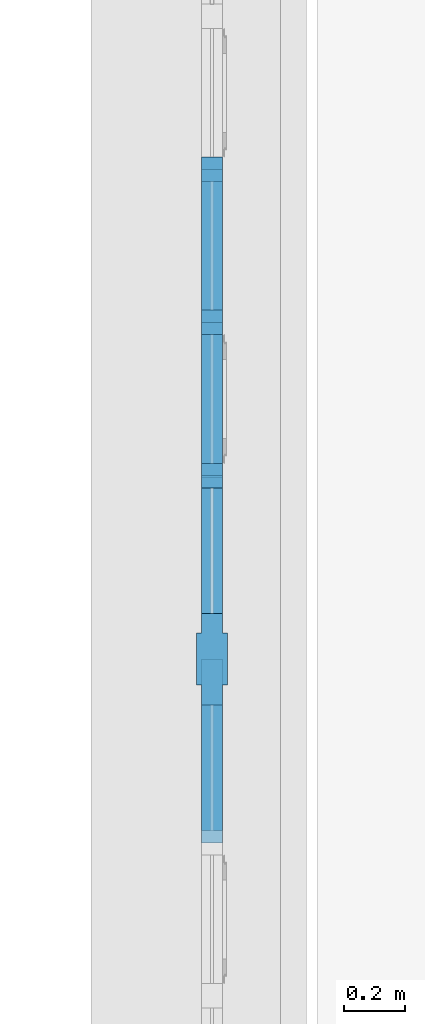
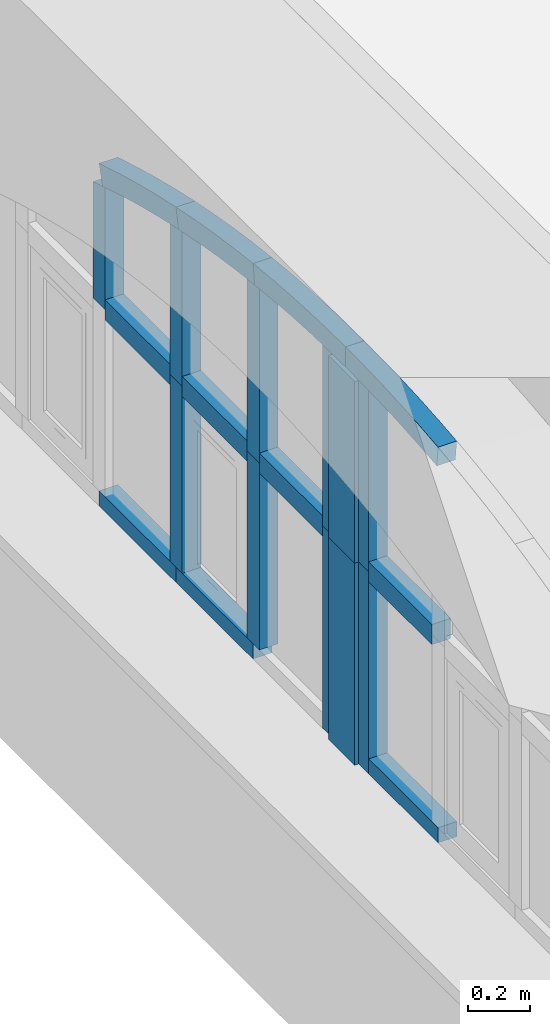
# One storey, part 8 of 32: 18 members, 1 element without a shape of its own.
"""IFC2X3 building model written with IfcOpenShell, lengths in millimetres."""

from ifc_helpers import new_model, entity, si_unit, converted_unit, derived_unit, direction, frame, frame_2d, origin, place, context, subcontext, project, spatial, polyline, circle_curve, parameter, trimmed, segment, composite_curve, rectangle, outline, extrude, faceted_brep, source, transform, mapped, material, type_object, type_shapes, element, aggregate, save


model = new_model("IFC2X3")

# Units and contexts
model_context = context("Model", 3, precision=0.01, world=origin(), true_north=direction((6.123031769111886e-17, 1.0)))
body_context = subcontext(model_context, "Body", "Model", "MODEL_VIEW")
ifc_project = project(units=[si_unit("LENGTHUNIT", "METRE", prefix="MILLI"), si_unit("AREAUNIT", "SQUARE_METRE"), si_unit("VOLUMEUNIT", "CUBIC_METRE"), converted_unit("PLANEANGLEUNIT", "DEGREE", entity("IfcPlaneAngleMeasure", 0.017453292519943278), si_unit("PLANEANGLEUNIT", "RADIAN"), dimensions=[0, 0, 0, 0, 0, 0, 0]), si_unit("MASSUNIT", "GRAM", prefix="KILO"), derived_unit("MASSDENSITYUNIT", [(si_unit("MASSUNIT", "GRAM", prefix="KILO"), 1), (si_unit("LENGTHUNIT", "METRE"), -3)]), derived_unit("IONCONCENTRATIONUNIT", [(si_unit("MASSUNIT", "GRAM", prefix="KILO"), 1), (si_unit("LENGTHUNIT", "METRE"), -3)]), derived_unit("MOMENTOFINERTIAUNIT", [(si_unit("LENGTHUNIT", "METRE"), 4)]), si_unit("TIMEUNIT", "SECOND"), si_unit("FREQUENCYUNIT", "HERTZ"), si_unit("THERMODYNAMICTEMPERATUREUNIT", "DEGREE_CELSIUS"), derived_unit("THERMALTRANSMITTANCEUNIT", [(si_unit("MASSUNIT", "GRAM", prefix="KILO"), 1), (si_unit("THERMODYNAMICTEMPERATUREUNIT", "KELVIN"), -1), (si_unit("TIMEUNIT", "SECOND"), -3)]), derived_unit("THERMALCONDUCTANCEUNIT", [(si_unit("MASSUNIT", "GRAM", prefix="KILO"), 1), (si_unit("THERMODYNAMICTEMPERATUREUNIT", "KELVIN"), -1), (si_unit("TIMEUNIT", "SECOND"), -3), (si_unit("LENGTHUNIT", "METRE"), 1)]), derived_unit("VOLUMETRICFLOWRATEUNIT", [(si_unit("LENGTHUNIT", "METRE", prefix="DECI"), 3), (si_unit("TIMEUNIT", "SECOND"), -1)]), derived_unit("MASSFLOWRATEUNIT", [(si_unit("MASSUNIT", "GRAM", prefix="KILO"), 1), (si_unit("TIMEUNIT", "SECOND"), -1)]), derived_unit("ROTATIONALFREQUENCYUNIT", [(si_unit("TIMEUNIT", "SECOND"), -1)]), si_unit("ELECTRICCURRENTUNIT", "AMPERE"), si_unit("ELECTRICVOLTAGEUNIT", "VOLT"), si_unit("POWERUNIT", "WATT"), si_unit("FORCEUNIT", "NEWTON", prefix="KILO"), si_unit("ILLUMINANCEUNIT", "LUX"), si_unit("LUMINOUSFLUXUNIT", "LUMEN"), si_unit("LUMINOUSINTENSITYUNIT", "CANDELA"), si_unit("ENERGYUNIT", "JOULE"), derived_unit("USERDEFINED", [(si_unit("MASSUNIT", "GRAM", prefix="KILO"), -1), (si_unit("LENGTHUNIT", "METRE"), -2), (si_unit("TIMEUNIT", "SECOND"), 3), (si_unit("LUMINOUSFLUXUNIT", "LUMEN"), 1)]), derived_unit("USERDEFINED", [(si_unit("MASSUNIT", "GRAM", prefix="KILO"), 1), (si_unit("TIMEUNIT", "SECOND"), -3), (si_unit("LENGTHUNIT", "METRE"), 3), (si_unit("ELECTRICCURRENTUNIT", "AMPERE"), -2)]), derived_unit("SOUNDPOWERUNIT", [(si_unit("MASSUNIT", "GRAM", prefix="KILO"), 1), (si_unit("TIMEUNIT", "SECOND"), -3), (si_unit("LENGTHUNIT", "METRE"), 2)]), derived_unit("SOUNDPRESSUREUNIT", [(si_unit("MASSUNIT", "GRAM", prefix="KILO"), 1), (si_unit("LENGTHUNIT", "METRE"), -1), (si_unit("TIMEUNIT", "SECOND"), -2)]), derived_unit("LINEARVELOCITYUNIT", [(si_unit("LENGTHUNIT", "METRE"), 1), (si_unit("TIMEUNIT", "SECOND"), -1)]), si_unit("PRESSUREUNIT", "PASCAL"), derived_unit("USERDEFINED", [(si_unit("MASSUNIT", "GRAM", prefix="KILO"), 1), (si_unit("LENGTHUNIT", "METRE"), -2), (si_unit("TIMEUNIT", "SECOND"), -2)]), derived_unit("LINEARFORCEUNIT", [(si_unit("MASSUNIT", "GRAM", prefix="KILO"), 1), (si_unit("TIMEUNIT", "SECOND"), -2)]), derived_unit("PLANARFORCEUNIT", [(si_unit("MASSUNIT", "GRAM", prefix="KILO"), 1), (si_unit("LENGTHUNIT", "METRE"), -1), (si_unit("TIMEUNIT", "SECOND"), -2)]), derived_unit("SPECIFICHEATCAPACITYUNIT", [(si_unit("THERMODYNAMICTEMPERATUREUNIT", "KELVIN"), -1), (si_unit("LENGTHUNIT", "METRE"), 2), (si_unit("TIMEUNIT", "SECOND"), -2)]), derived_unit("HEATFLUXDENSITYUNIT", [(si_unit("MASSUNIT", "GRAM", prefix="KILO"), 1), (si_unit("TIMEUNIT", "SECOND"), -3)]), derived_unit("HEATINGVALUEUNIT", [(si_unit("LENGTHUNIT", "METRE"), 2), (si_unit("TIMEUNIT", "SECOND"), -2)]), derived_unit("VAPORPERMEABILITYUNIT", [(si_unit("LENGTHUNIT", "METRE"), -1), (si_unit("TIMEUNIT", "SECOND"), 1)]), derived_unit("DYNAMICVISCOSITYUNIT", [(si_unit("MASSUNIT", "GRAM", prefix="KILO"), 1), (si_unit("TIMEUNIT", "SECOND"), -1), (si_unit("LENGTHUNIT", "METRE"), -1)]), derived_unit("THERMALEXPANSIONCOEFFICIENTUNIT", [(si_unit("THERMODYNAMICTEMPERATUREUNIT", "KELVIN"), -1)]), derived_unit("MODULUSOFELASTICITYUNIT", [(si_unit("MASSUNIT", "GRAM", prefix="KILO"), 1), (si_unit("LENGTHUNIT", "METRE"), -1), (si_unit("TIMEUNIT", "SECOND"), -2)]), derived_unit("ISOTHERMALMOISTURECAPACITYUNIT", [(si_unit("MASSUNIT", "GRAM", prefix="KILO"), -1), (si_unit("LENGTHUNIT", "METRE"), 3)]), derived_unit("MOISTUREDIFFUSIVITYUNIT", [(si_unit("TIMEUNIT", "SECOND"), -1), (si_unit("LENGTHUNIT", "METRE"), 2)]), derived_unit("MASSPERLENGTHUNIT", [(si_unit("MASSUNIT", "GRAM", prefix="KILO"), 1), (si_unit("LENGTHUNIT", "METRE"), -1)]), derived_unit("THERMALRESISTANCEUNIT", [(si_unit("MASSUNIT", "GRAM", prefix="KILO"), -1), (si_unit("TIMEUNIT", "SECOND"), 3), (si_unit("THERMODYNAMICTEMPERATUREUNIT", "KELVIN"), 1)]), derived_unit("ACCELERATIONUNIT", [(si_unit("LENGTHUNIT", "METRE"), 1), (si_unit("TIMEUNIT", "SECOND"), -2)]), derived_unit("ANGULARVELOCITYUNIT", [(si_unit("TIMEUNIT", "SECOND"), -1), (si_unit("PLANEANGLEUNIT", "RADIAN"), 1)]), derived_unit("LINEARSTIFFNESSUNIT", [(si_unit("MASSUNIT", "GRAM", prefix="KILO"), 1), (si_unit("TIMEUNIT", "SECOND"), -2)]), derived_unit("WARPINGCONSTANTUNIT", [(si_unit("LENGTHUNIT", "METRE"), 6)]), derived_unit("LINEARMOMENTUNIT", [(si_unit("MASSUNIT", "GRAM", prefix="KILO"), 1), (si_unit("LENGTHUNIT", "METRE"), 1), (si_unit("TIMEUNIT", "SECOND"), -2)]), derived_unit("TORQUEUNIT", [(si_unit("MASSUNIT", "GRAM", prefix="KILO"), 1), (si_unit("LENGTHUNIT", "METRE"), 2), (si_unit("TIMEUNIT", "SECOND"), -2)])], contexts=[model_context])

# Site, building, storey
site_placement = place(None, origin())
site = spatial("IfcSite", under=ifc_project, at=site_placement, Name="Default", CompositionType="ELEMENT")
building_placement = place(site_placement, origin())
building = spatial("IfcBuilding", under=site, at=building_placement, Name="Eesti Rahvusraamatukogu hoone renoveerimise projekteerimistööd", CompositionType="ELEMENT")
storey_placement = place(building_placement, frame((0.0, 0.0, 4950.000000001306)))
storey = spatial("IfcBuildingStorey", under=building, at=storey_placement, Name="2. korrus", CompositionType="ELEMENT", Elevation=4950.000000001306)

# Curtain wall, members
curtain_wall_type = type_object("IfcCurtainWallType", Name="Curtain Wall:Ak-04", PredefinedType="NOTDEFINED")
curtain_wall_placement = place(storey_placement, frame((0.0, 0.0, -4950.000000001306)))
curtain_wall = element("IfcCurtainWall", 1, at=curtain_wall_placement, inside=storey, type_object=curtain_wall_type, Name="Curtain Wall:Ak-04", ObjectType="Curtain Wall:Ak-04")
ifc_material = material(Name="LUMION_dark steel window frames")
member_type_1 = type_object("IfcMemberType", Name="Rectangular Mullion:NEW 80x70mm", PredefinedType="MULLION", material=ifc_material)
shared_shape_1 = source(origin(), body_context, "Body", "SweptSolid", [
    extrude(rectangle(XDim=80.0, YDim=70.0, at=frame_2d((0.0, -3.552713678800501e-15), x_axis=(1.0, 0.0))), frame((0.0, 0.0, -420.0), z_axis=(0.0, 0.0, 1.0), x_axis=(-1.0, 0.0, 0.0)), (0.0, 0.0, 1.0), 419.999999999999),
])
type_shapes(member_type_1, [shared_shape_1])
member_1_placement = place(curtain_wall_placement, frame((-36383.999999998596, 16008.695591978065, 6550.000000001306), z_axis=(0.0, -1.0, 0.0), x_axis=(0.0, 0.0, 1.0)))
member_1 = element("IfcMember", 2, at=member_1_placement, type_object=member_type_1, material=ifc_material, Name="Rectangular Mullion:NEW 80x70mm", ObjectType="Rectangular Mullion:NEW 80x70mm", context=body_context, shape_type="MappedRepresentation", body=[
    mapped(shared_shape_1, transform((0.0, 0.0, 0.0), scale=1.0)),
])
member_2_placement = place(curtain_wall_placement, frame((-36383.999999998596, 16508.695591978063, 6550.000000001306), z_axis=(0.0, -1.0, 0.0), x_axis=(0.0, 0.0, 1.0)))
member_2 = element("IfcMember", 3, at=member_2_placement, type_object=member_type_1, material=ifc_material, Name="Rectangular Mullion:NEW 80x70mm", ObjectType="Rectangular Mullion:NEW 80x70mm", context=body_context, shape_type="MappedRepresentation", body=[
    mapped(shared_shape_1, transform((0.0, 0.0, 0.0), scale=1.0)),
])
member_type_2 = type_object("IfcMemberType", Name="Rectangular Mullion:NEW 80x70mm", PredefinedType="MULLION", material=ifc_material)
shared_shape_2 = source(origin(), body_context, "Body", "SweptSolid", [
    extrude(rectangle(XDim=80.0, YDim=70.0, at=frame_2d((0.0, -3.552713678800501e-15), x_axis=(1.0, 0.0))), frame((0.0, 0.0, -410.0), z_axis=(0.0, 0.0, 1.0), x_axis=(-1.0, 0.0, 0.0)), (0.0, 0.0, 1.0), 409.9999999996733),
])
type_shapes(member_type_2, [shared_shape_2])
member_3_placement = place(curtain_wall_placement, frame((-36383.999999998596, 15518.695591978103, 6550.000000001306), z_axis=(0.0, -1.0, 0.0), x_axis=(0.0, 0.0, 1.0)))
member_3 = element("IfcMember", 4, at=member_3_placement, type_object=member_type_2, material=ifc_material, Name="Rectangular Mullion:NEW 80x70mm", ObjectType="Rectangular Mullion:NEW 80x70mm", context=body_context, shape_type="MappedRepresentation", body=[
    mapped(shared_shape_2, transform((0.0, 0.0, 0.0), scale=1.0)),
])
member_4_placement = place(curtain_wall_placement, frame((-36383.999999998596, 14808.6955919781, 6550.000000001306), z_axis=(0.0, -1.0, 0.0), x_axis=(0.0, 0.0, 1.0)))
member_4 = element("IfcMember", 5, at=member_4_placement, type_object=member_type_2, material=ifc_material, Name="Rectangular Mullion:NEW 80x70mm", ObjectType="Rectangular Mullion:NEW 80x70mm", context=body_context, shape_type="MappedRepresentation", body=[
    mapped(shared_shape_2, transform((0.0, 0.0, 0.0), scale=1.0)),
])
member_type_3 = type_object("IfcMemberType", Name="Rectangular Mullion:NEW 60x70mm", PredefinedType="MULLION", material=ifc_material)
shared_shape_3 = source(origin(), body_context, "Body", "SweptSolid", [
    extrude(rectangle(XDim=60.0, YDim=70.0, at=frame_2d((0.0, 3.552713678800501e-15), x_axis=(1.0, 0.0))), frame((-30.0, 0.0, -500.0), z_axis=(0.0, 0.0, 1.0), x_axis=(-1.0, 0.0, 0.0)), (0.0, 0.0, 1.0), 499.999999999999),
])
type_shapes(member_type_3, [shared_shape_3])
member_5_placement = place(curtain_wall_placement, frame((-36383.999999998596, 16468.695591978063, 5750.000000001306), z_axis=(0.0, 1.0, 0.0), x_axis=(0.0, 0.0, -1.0)))
member_5 = element("IfcMember", 6, at=member_5_placement, type_object=member_type_3, material=ifc_material, Name="Rectangular Mullion:NEW 60x70mm", ObjectType="Rectangular Mullion:NEW 60x70mm", context=body_context, shape_type="MappedRepresentation", body=[
    mapped(shared_shape_3, transform((0.0, 0.0, 0.0), scale=1.0)),
])
member_6_placement = place(curtain_wall_placement, frame((-36383.999999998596, 16968.695591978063, 5750.000000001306), z_axis=(0.0, 1.0, 0.0), x_axis=(0.0, 0.0, -1.0)))
member_6 = element("IfcMember", 7, at=member_6_placement, type_object=member_type_3, material=ifc_material, Name="Rectangular Mullion:NEW 60x70mm", ObjectType="Rectangular Mullion:NEW 60x70mm", context=body_context, shape_type="MappedRepresentation", body=[
    mapped(shared_shape_3, transform((0.0, 0.0, 0.0), scale=1.0)),
])
member_type_4 = type_object("IfcMemberType", Name="Rectangular Mullion:NEW 60x70mm", PredefinedType="MULLION", material=ifc_material)
shared_shape_4 = source(origin(), body_context, "Body", "SweptSolid", [
    extrude(rectangle(XDim=60.0, YDim=70.0, at=frame_2d((0.0, 3.552713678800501e-15), x_axis=(1.0, 0.0))), frame((-30.0, 0.0, -450.0), z_axis=(0.0, 0.0, 1.0), x_axis=(-1.0, 0.0, 0.0)), (0.0, 0.0, 1.0), 449.9999999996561),
])
type_shapes(member_type_4, [shared_shape_4])
member_7_placement = place(curtain_wall_placement, frame((-36383.999999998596, 15218.695591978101, 5750.000000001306), z_axis=(0.0, 1.0, 0.0), x_axis=(0.0, 0.0, -1.0)))
member_7 = element("IfcMember", 8, at=member_7_placement, type_object=member_type_4, material=ifc_material, Name="Rectangular Mullion:NEW 60x70mm", ObjectType="Rectangular Mullion:NEW 60x70mm", context=body_context, shape_type="MappedRepresentation", body=[
    mapped(shared_shape_4, transform((0.0, 0.0, 0.0), scale=1.0)),
])
member_type_5 = type_object("IfcMemberType", Name="Rectangular Mullion:NEW 80x70mm", PredefinedType="MULLION", material=ifc_material)
shared_shape_5 = source(origin(), body_context, "Body", "SweptSolid", [
    extrude(rectangle(XDim=80.0, YDim=70.0, at=frame_2d((0.0, -3.552713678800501e-15), x_axis=(1.0, 0.0))), frame((0.0, 0.0, -740.0), z_axis=(0.0, 0.0, 1.0), x_axis=(-1.0, 0.0, 0.0)), (0.0, 0.0, 1.0), 740.0),
])
type_shapes(member_type_5, [shared_shape_5])
member_8_placement = place(curtain_wall_placement, frame((-36383.999999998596, 15968.695591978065, 5810.000000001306), z_axis=(0.0, 0.0, -1.0), x_axis=(0.0, -1.0, 0.0)))
member_8 = element("IfcMember", 9, at=member_8_placement, type_object=member_type_5, material=ifc_material, Name="Rectangular Mullion:NEW 80x70mm", ObjectType="Rectangular Mullion:NEW 80x70mm", context=body_context, shape_type="MappedRepresentation", body=[
    mapped(shared_shape_5, transform((0.0, 0.0, 0.0), scale=1.0)),
])
member_9_placement = place(curtain_wall_placement, frame((-36383.999999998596, 16468.695591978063, 5810.000000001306), z_axis=(0.0, 0.0, -1.0), x_axis=(0.0, -1.0, 0.0)))
member_9 = element("IfcMember", 10, at=member_9_placement, type_object=member_type_5, material=ifc_material, Name="Rectangular Mullion:NEW 80x70mm", ObjectType="Rectangular Mullion:NEW 80x70mm", context=body_context, shape_type="MappedRepresentation", body=[
    mapped(shared_shape_5, transform((0.0, 0.0, 0.0), scale=1.0)),
])
member_type_6 = type_object("IfcMemberType", Name="Rectangular Mullion:NEW 80x70mm", PredefinedType="MULLION", material=ifc_material)
shared_shape_6 = source(origin(), body_context, "Body", "SweptSolid", [
    extrude(outline(composite_curve([segment(polyline([(-411.6963002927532, -38.21553912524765), (278.6344972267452, -38.21553912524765)]), True, "CONTINUOUS"), segment(trimmed(circle_curve(frame_2d((-4991.472419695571, -598.2155391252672), x_axis=(1.0, 0.0)), 5299.776119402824), [parameter(6.065472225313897)], [parameter(6.403451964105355)], True, "PARAMETER"), True, "CONTINUOUS"), segment(trimmed(circle_curve(frame_2d((-4991.472419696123, -598.2155391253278), x_axis=(0.9937612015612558, 0.11152880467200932)), 5299.776119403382), [parameter(0.0)], [parameter(0.532503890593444)], True, "PARAMETER"), True, "CONTINUOUS"), segment(polyline([(269.51863863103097, 41.78446087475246), (-411.6963002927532, 41.78446087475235)]), True, "CONTINUOUS"), segment(polyline([(-411.6963002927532, 41.78446087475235), (-411.6963002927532, -38.21553912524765)]), True, "CONTINUOUS")], self_intersect=False)), frame((1.7844608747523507, -35.0, -411.6963002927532), z_axis=(0.0, 1.0, 0.0), x_axis=(0.0, 0.0, -1.0)), (0.0, 0.0, 1.0), 69.99999999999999),
])
type_shapes(member_type_6, [shared_shape_6])
member_10_placement = place(curtain_wall_placement, frame((-36383.999999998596, 15968.695591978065, 6550.000000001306), z_axis=(0.0, 0.0, -1.0), x_axis=(0.0, -1.0, 0.0)))
member_10 = element("IfcMember", 11, at=member_10_placement, type_object=member_type_6, material=ifc_material, Name="Rectangular Mullion:NEW 80x70mm", ObjectType="Rectangular Mullion:NEW 80x70mm", context=body_context, shape_type="MappedRepresentation", body=[
    mapped(shared_shape_6, transform((0.0, 0.0, 0.0), scale=1.0)),
])
member_type_7 = type_object("IfcMemberType", Name="Rectangular Mullion:NEW 80x70mm", PredefinedType="MULLION", material=ifc_material)
shared_shape_7 = source(origin(), body_context, "Body", "SweptSolid", [
    extrude(outline(composite_curve([segment(polyline([(-363.376788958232, -36.72848839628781), (249.53684896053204, -36.72848839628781)]), True, "CONTINUOUS"), segment(trimmed(circle_curve(frame_2d((-4943.152908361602, -1096.7284883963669), x_axis=(0.9937612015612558, 0.11152880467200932)), 5299.776119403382), [parameter(5.134001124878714)], [parameter(5.394992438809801)], True, "PARAMETER"), True, "CONTINUOUS"), segment(trimmed(circle_curve(frame_2d((-4943.152908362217, -1096.7284883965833), x_axis=(0.9788729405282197, 0.20446947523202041)), 5299.776119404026), [parameter(0.0)], [parameter(0.6231507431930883)], True, "PARAMETER"), True, "CONTINUOUS"), segment(polyline([(232.5622031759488, 43.27151160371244), (-363.376788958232, 43.27151160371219)]), True, "CONTINUOUS"), segment(polyline([(-363.376788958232, 43.27151160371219), (-363.376788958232, -36.72848839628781)]), True, "CONTINUOUS")], self_intersect=False)), frame((3.2715116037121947, -35.0, -363.376788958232), z_axis=(0.0, 1.0, 0.0), x_axis=(0.0, 0.0, -1.0)), (0.0, 0.0, 1.0), 69.99999999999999),
])
type_shapes(member_type_7, [shared_shape_7])
member_11_placement = place(curtain_wall_placement, frame((-36383.999999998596, 16468.695591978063, 6550.000000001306), z_axis=(0.0, 0.0, -1.0), x_axis=(0.0, -1.0, 0.0)))
member_11 = element("IfcMember", 12, at=member_11_placement, type_object=member_type_7, material=ifc_material, Name="Rectangular Mullion:NEW 80x70mm", ObjectType="Rectangular Mullion:NEW 80x70mm", context=body_context, shape_type="MappedRepresentation", body=[
    mapped(shared_shape_7, transform((0.0, 0.0, 0.0), scale=1.0)),
])
member_type_8 = type_object("IfcMemberType", Name="Rectangular Mullion:NEW 80x70mm", PredefinedType="MULLION", material=ifc_material)
shared_shape_8 = source(origin(), body_context, "Body", "SweptSolid", [
    extrude(outline(composite_curve([segment(polyline([(-285.0515721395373, -35.24143766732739), (200.1527542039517, -35.24143766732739)]), True, "CONTINUOUS"), segment(trimmed(circle_curve(frame_2d((-4864.827691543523, -1595.241437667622), x_axis=(0.9788729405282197, 0.20446947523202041)), 5299.776119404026), [parameter(5.320243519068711)], [parameter(5.503672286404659)], True, "PARAMETER"), True, "CONTINUOUS"), segment(trimmed(circle_curve(frame_2d((-4864.827691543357, -1595.2414376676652), x_axis=(0.9547498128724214, 0.2974101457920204)), 5299.776119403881), [parameter(0.0)], [parameter(0.7237926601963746)], True, "PARAMETER"), True, "CONTINUOUS"), segment(polyline([(174.8178233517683, 44.758562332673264), (-285.0515721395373, 44.75856233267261)]), True, "CONTINUOUS"), segment(polyline([(-285.0515721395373, 44.75856233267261), (-285.0515721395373, -35.24143766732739)]), True, "CONTINUOUS")], self_intersect=False)), frame((4.758562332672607, -35.0, -285.0515721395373), z_axis=(0.0, 1.0, 0.0), x_axis=(0.0, 0.0, -1.0)), (0.0, 0.0, 1.0), 70.00000000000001),
])
type_shapes(member_type_8, [shared_shape_8])
member_12_placement = place(curtain_wall_placement, frame((-36383.999999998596, 16968.695591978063, 6550.000000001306), z_axis=(0.0, 0.0, -1.0), x_axis=(0.0, -1.0, 0.0)))
member_12 = element("IfcMember", 13, at=member_12_placement, type_object=member_type_8, material=ifc_material, Name="Rectangular Mullion:NEW 80x70mm", ObjectType="Rectangular Mullion:NEW 80x70mm", context=body_context, shape_type="MappedRepresentation", body=[
    mapped(shared_shape_8, transform((0.0, 0.0, 0.0), scale=1.0)),
])
member_type_9 = type_object("IfcMemberType", Name="Rectangular Mullion:NEW 80x70mm", PredefinedType="MULLION", material=ifc_material)
shared_shape_9 = source(origin(), body_context, "Body", "SweptSolid", [
    extrude(outline(composite_curve([segment(polyline([(-51.82710825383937, -251.02635265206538), (28.172891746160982, -251.0263526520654)]), True, "CONTINUOUS"), segment(trimmed(circle_curve(frame_2d((5327.949011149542, -251.0263526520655), x_axis=(-0.995570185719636, 0.09402130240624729)), 5299.776119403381), [parameter(3.5622212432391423e-13)], [parameter(5.394992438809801)], True, "PARAMETER"), False, "CONTINUOUS"), segment(polyline([(51.649915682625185, 247.26550055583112), (-27.99569917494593, 254.78720474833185)]), True, "CONTINUOUS"), segment(trimmed(circle_curve(frame_2d((5327.949011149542, -251.0263526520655), x_axis=(-0.995570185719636, 0.09402130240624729)), 5379.776119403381), [parameter(3.5622212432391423e-13)], [parameter(5.394992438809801)], True, "PARAMETER"), True, "CONTINUOUS")], self_intersect=False)), frame((-51.827108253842, -35.0, -251.0263526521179), z_axis=(0.0, 1.0, 0.0), x_axis=(-0.9955701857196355, 0.0, 0.09402130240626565)), (0.0, 0.0, 1.0), 69.99999999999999),
])
type_shapes(member_type_9, [shared_shape_9])
member_13_placement = place(curtain_wall_placement, frame((-36383.999999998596, 15968.695591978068, 7316.436661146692), z_axis=(0.0, -0.9937612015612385, 0.11152880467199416), x_axis=(0.0, 0.11152880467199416, 0.9937612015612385)))
member_13 = element("IfcMember", 14, at=member_13_placement, type_object=member_type_9, material=ifc_material, Name="Rectangular Mullion:NEW 80x70mm", ObjectType="Rectangular Mullion:NEW 80x70mm", context=body_context, shape_type="MappedRepresentation", body=[
    mapped(shared_shape_9, transform((0.0, 0.0, 0.0), scale=1.0)),
])
member_type_10 = type_object("IfcMemberType", Name="Rectangular Mullion:NEW 80x70mm", PredefinedType="MULLION", material=ifc_material)
shared_shape_10 = source(origin(), body_context, "Body", "SweptSolid", [
    extrude(outline(composite_curve([segment(polyline([(-52.308041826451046, -256.0677643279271), (27.6919581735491, -256.0677643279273)]), True, "CONTINUOUS"), segment(trimmed(circle_curve(frame_2d((5327.468077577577, -256.0677643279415), x_axis=(-0.995390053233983, 0.09590955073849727)), 5299.776119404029), [parameter(3.5622212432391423e-13)], [parameter(5.503672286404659)], True, "PARAMETER"), False, "CONTINUOUS"), segment(polyline([(52.12364395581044, 252.23138229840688), (-27.50756030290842, 259.90414635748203)]), True, "CONTINUOUS"), segment(trimmed(circle_curve(frame_2d((5327.468077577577, -256.0677643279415), x_axis=(-0.995390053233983, 0.09590955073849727)), 5379.776119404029), [parameter(3.5622212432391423e-13)], [parameter(5.503672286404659)], True, "PARAMETER"), True, "CONTINUOUS")], self_intersect=False)), frame((-52.30804182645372, -35.0, -256.0677643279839), z_axis=(0.0, 1.0, 0.0), x_axis=(-0.9953900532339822, 0.0, 0.09590955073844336)), (0.0, 0.0, 1.0), 69.99999999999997),
])
type_shapes(member_type_10, [shared_shape_10])
member_14_placement = place(curtain_wall_placement, frame((-36383.999999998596, 16468.69559197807, 7236.341149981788), z_axis=(0.0, -0.9788729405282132, 0.2044694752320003), x_axis=(0.0, 0.2044694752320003, 0.9788729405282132)))
member_14 = element("IfcMember", 15, at=member_14_placement, type_object=member_type_10, material=ifc_material, Name="Rectangular Mullion:NEW 80x70mm", ObjectType="Rectangular Mullion:NEW 80x70mm", context=body_context, shape_type="MappedRepresentation", body=[
    mapped(shared_shape_10, transform((0.0, 0.0, 0.0), scale=1.0)),
])
member_type_11 = type_object("IfcMemberType", Name="Rectangular Mullion:NEW 300x100mm", PredefinedType="MULLION", material=ifc_material)
shared_shape_11 = source(origin(), body_context, "Body", "Brep", [
    faceted_brep([(-85.0, -50.0, 0.0), (85.0, -50.0, 0.0), (85.0, -35.0, 0.0), (150.0, -35.0, 0.0), (150.0, 35.0, 0.0), (85.0, 35.0, 0.0), (85.0, 50.0, 0.0), (-85.0, 50.0, 0.0), (-85.0, 35.0, 0.0), (-150.0, 35.0, 0.0), (-150.0, -35.0, 0.0), (-85.0, -35.0, 0.0), (-85.0, 35.0, -719.3183235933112), (-117.50221047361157, 35.0, -718.6972594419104), (-150.0, 35.0, -717.8768435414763), (150.0, 35.0, -717.8768435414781), (117.50221047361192, 35.0, -718.6972594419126), (85.0, 35.0, -719.3183235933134), (-150.0, -35.0, -717.8768435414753), (-117.50221047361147, -35.0, -718.6972594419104), (-85.0, -35.0, -719.3183235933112), (85.0, -35.0, -719.3183235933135), (117.50221047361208, -35.0, -718.6972594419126), (150.0, -35.0, -717.8768435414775), (-85.0, -50.0, -719.3183235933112), (-85.0, 50.0, -719.3183235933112), (-42.50068337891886, -50.0, -719.8295836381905), (0.0, -50.0, -720.0), (42.500683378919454, -50.0, -719.8295836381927), (85.0, -50.0, -719.3183235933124), (85.0, 50.0, -719.3183235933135), (42.500683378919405, 50.0, -719.8295836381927), (0.0, 50.0, -720.0), (-42.500683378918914, 50.0, -719.8295836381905)], [[[0, 1, 2, 3, 4, 5, 6, 7, 8, 9, 10, 11]], [[9, 8, 12, 13, 14]], [[5, 4, 15, 16, 17]], [[10, 9, 14, 18]], [[11, 10, 18, 19, 20]], [[3, 2, 21, 22, 23]], [[0, 11, 20, 24]], [[8, 7, 25, 12]], [[1, 0, 24, 26, 27, 28, 29]], [[2, 1, 29, 21]], [[6, 5, 17, 30]], [[4, 3, 23, 15]], [[7, 6, 30, 31, 32, 33, 25]], [[33, 32, 27, 26]], [[20, 12, 25, 33, 26, 24]], [[20, 19, 13, 12]], [[19, 18, 14, 13]], [[15, 23, 22, 16]], [[16, 22, 21, 17]], [[21, 29, 28, 31, 30, 17]], [[31, 28, 27, 32]]]),
])
type_shapes(member_type_11, [shared_shape_11])
member_15_placement = place(curtain_wall_placement, frame((-36383.999999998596, 15368.695591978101, 6550.000000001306), z_axis=(0.0, 0.0, -1.0), x_axis=(0.0, -1.0, 0.0)))
member_15 = element("IfcMember", 16, at=member_15_placement, type_object=member_type_11, material=ifc_material, Name="Rectangular Mullion:NEW 300x100mm", ObjectType="Rectangular Mullion:NEW 300x100mm", context=body_context, shape_type="MappedRepresentation", body=[
    mapped(shared_shape_11, transform((0.0, 0.0, 0.0), scale=1.0)),
])
member_type_12 = type_object("IfcMemberType", Name="Rectangular Mullion:NEW 300x100mm", PredefinedType="MULLION", material=ifc_material)
shared_shape_12 = source(origin(), body_context, "Body", "SweptSolid", [
    extrude(outline(polyline([(85.0, -35.0), (150.0, -35.0), (150.0, 35.0), (85.0, 35.0), (85.0, 50.0), (-85.0, 50.0), (-85.0, 35.0), (-150.0, 35.0), (-150.0, -35.0), (-85.0, -35.0), (-85.0, -50.0), (85.0, -50.0), (85.0, -35.0)])), frame((0.0, 0.0, -800.0), z_axis=(0.0, 0.0, 1.0), x_axis=(-1.0, 0.0, 0.0)), (0.0, 0.0, 1.0), 800.0),
])
type_shapes(member_type_12, [shared_shape_12])
member_16_placement = place(curtain_wall_placement, frame((-36383.999999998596, 15368.695591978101, 5750.000000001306), z_axis=(0.0, 0.0, -1.0), x_axis=(0.0, -1.0, 0.0)))
member_16 = element("IfcMember", 17, at=member_16_placement, type_object=member_type_12, material=ifc_material, Name="Rectangular Mullion:NEW 300x100mm", ObjectType="Rectangular Mullion:NEW 300x100mm", context=body_context, shape_type="MappedRepresentation", body=[
    mapped(shared_shape_12, transform((0.0, 0.0, 0.0), scale=1.0)),
])
member_type_13 = type_object("IfcMemberType", Name="Rectangular Mullion:NEW 80x70mm", PredefinedType="MULLION", material=ifc_material)
shared_shape_13 = source(origin(), body_context, "Body", "SweptSolid", [
    extrude(outline(composite_curve([segment(polyline([(-56.65689345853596, -297.7694239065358), (23.343106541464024, -297.7694239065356)]), True, "CONTINUOUS"), segment(trimmed(circle_curve(frame_2d((5323.119225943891, -297.7694239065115), x_axis=(-0.9937612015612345, 0.11152880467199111)), 5299.776119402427), [parameter(3.5622212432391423e-13)], [parameter(6.4034519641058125)], True, "PARAMETER"), False, "CONTINUOUS"), segment(polyline([(56.40734152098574, 293.3082717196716), (-23.093554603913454, 302.230576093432)]), True, "CONTINUOUS"), segment(trimmed(circle_curve(frame_2d((5323.119225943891, -297.7694239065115), x_axis=(-0.9937612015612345, 0.11152880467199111)), 5379.776119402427), [parameter(3.5622212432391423e-13)], [parameter(6.4034519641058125)], True, "PARAMETER"), True, "CONTINUOUS")], self_intersect=False)), frame((-56.6568934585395, -35.0, -297.7694239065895), z_axis=(0.0, 1.0, 0.0), x_axis=(-0.9937612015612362, 0.0, 0.11152880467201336)), (0.0, 0.0, 1.0), 70.00000000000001),
])
type_shapes(member_type_13, [shared_shape_13])
member_17_placement = place(curtain_wall_placement, frame((-36383.999999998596, 14768.6955919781, 7316.436661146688), z_axis=(0.0, -0.9937612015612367, -0.11152880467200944), x_axis=(0.0, -0.11152880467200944, 0.9937612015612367)))
member_17 = element("IfcMember", 18, at=member_17_placement, type_object=member_type_13, material=ifc_material, Name="Rectangular Mullion:NEW 80x70mm", ObjectType="Rectangular Mullion:NEW 80x70mm", context=body_context, shape_type="MappedRepresentation", body=[
    mapped(shared_shape_13, transform((0.0, 0.0, 0.0), scale=1.0)),
])
member_type_14 = type_object("IfcMemberType", Name="Rectangular Mullion:NEW 80x70mm", PredefinedType="MULLION", material=ifc_material)
shared_shape_14 = source(origin(), body_context, "Body", "SweptSolid", [
    extrude(outline(composite_curve([segment(polyline([(-56.65689345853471, -297.7694239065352), (23.343106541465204, -297.7694239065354)]), True, "CONTINUOUS"), segment(trimmed(circle_curve(frame_2d((5323.11922594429, -297.7694239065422), x_axis=(-0.9937612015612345, 0.11152880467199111)), 5299.776119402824), [parameter(3.5622212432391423e-13)], [parameter(6.403451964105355)], True, "PARAMETER"), False, "CONTINUOUS"), segment(polyline([(56.40734152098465, 293.3082717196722), (-23.093554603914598, 302.2305760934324)]), True, "CONTINUOUS"), segment(trimmed(circle_curve(frame_2d((5323.11922594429, -297.7694239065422), x_axis=(-0.9937612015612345, 0.11152880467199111)), 5379.776119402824), [parameter(3.5622212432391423e-13)], [parameter(6.403451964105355)], True, "PARAMETER"), True, "CONTINUOUS")], self_intersect=False)), frame((-56.65689345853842, -35.0, -297.7694239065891), z_axis=(0.0, 1.0, 0.0), x_axis=(-0.993761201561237, 0.0, 0.11152880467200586)), (0.0, 0.0, 1.0), 70.0),
])
type_shapes(member_type_14, [shared_shape_14])
member_18_placement = place(curtain_wall_placement, frame((-36383.999999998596, 15368.695591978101, 7350.000000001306), z_axis=(0.0, -1.0, 0.0), x_axis=(0.0, 0.0, 1.0)))
member_18 = element("IfcMember", 19, at=member_18_placement, type_object=member_type_14, material=ifc_material, Name="Rectangular Mullion:NEW 80x70mm", ObjectType="Rectangular Mullion:NEW 80x70mm", context=body_context, shape_type="MappedRepresentation", body=[
    mapped(shared_shape_14, transform((0.0, 0.0, 0.0), scale=1.0)),
])
aggregate(curtain_wall, [member_10, member_8, member_11, member_9, member_12, member_5, member_6, member_7, member_13, member_14, member_3, member_1, member_2, member_4, member_15, member_16, member_17, member_18])

save(model, "model.ifc")
